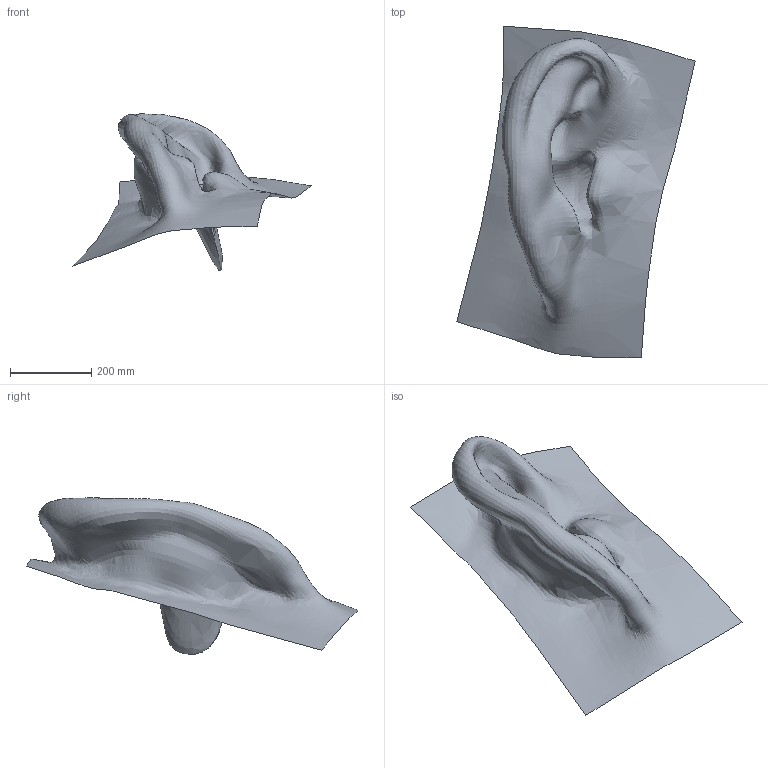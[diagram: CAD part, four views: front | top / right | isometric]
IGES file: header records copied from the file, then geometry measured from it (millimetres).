
Global section: file name: D:\RhinoResurf(v1.01)\multi_surface\ear\single.igs; native system: Rhinoceros ( Oct 17 2007 ); preprocessor: Trout Lake IGES 012 Oct 17 2007; date: 080417.162620; units: centimetre
Bounding box: 586.32 x 815.68 x 385.94 mm (x, y, z)
Surface area: 718812.1 mm2 (no closed solid volume)
Topology: 0 solids, 0 shells, 1 faces, 4 edges, 4 vertices
Faces by surface type: bspline 1
